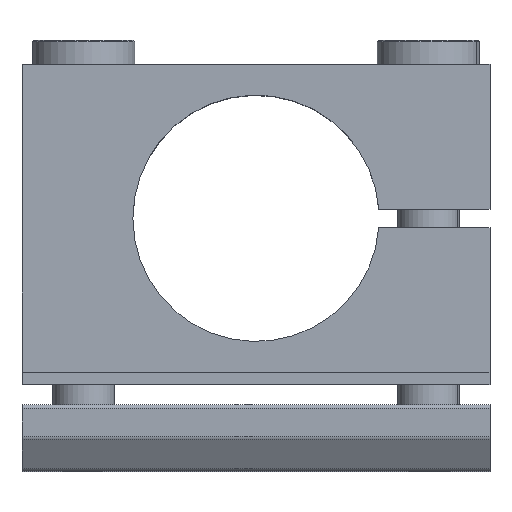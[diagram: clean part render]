
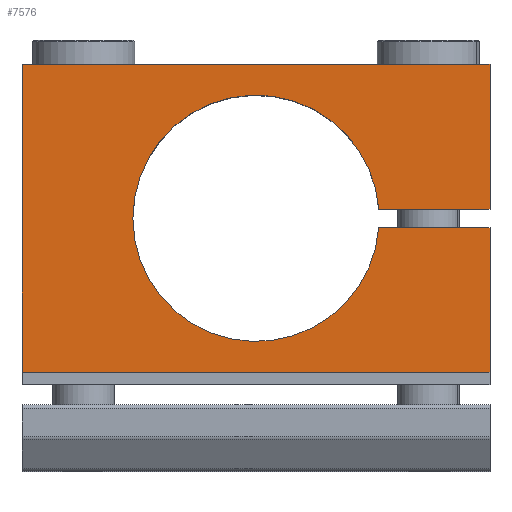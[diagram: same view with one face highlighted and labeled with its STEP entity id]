
A CAD part, top view. The second image highlights one B-rep face of the part: STEP entity #7576.
In plain terms, the highlighted planar face has unit normal (0, 0, 1).
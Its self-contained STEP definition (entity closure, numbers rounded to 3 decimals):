
#132 = LINE ( 'NONE', #1173, #3458 ) ;
#212 = CARTESIAN_POINT ( 'NONE',  ( 0., 0., 19.783 ) ) ;
#249 = ORIENTED_EDGE ( 'NONE', *, *, #5268, .F. ) ;
#331 = ORIENTED_EDGE ( 'NONE', *, *, #5011, .F. ) ;
#382 = CARTESIAN_POINT ( 'NONE',  ( -61.225, 36.97, 19.783 ) ) ;
#425 = LINE ( 'NONE', #7567, #1794 ) ;
#461 = CIRCLE ( 'NONE', #8224, 10. ) ;
#680 = CARTESIAN_POINT ( 'NONE',  ( -52.197, 38.47, 19.783 ) ) ;
#822 = LINE ( 'NONE', #7370, #8998 ) ;
#840 = AXIS2_PLACEMENT_3D ( 'NONE', #212, #6084, #6158 ) ;
#1069 = FACE_OUTER_BOUND ( 'NONE', #5397, .T. ) ;
#1173 = CARTESIAN_POINT ( 'NONE',  ( -52.197, 38.47, 19.783 ) ) ;
#1526 = VERTEX_POINT ( 'NONE', #5766 ) ;
#1528 = VERTEX_POINT ( 'NONE', #680 ) ;
#1765 = EDGE_CURVE ( 'NONE', #7439, #2057, #6454, .T. ) ;
#1794 = VECTOR ( 'NONE', #8267, 1000. ) ;
#1916 = DIRECTION ( 'NONE',  ( -1., 0., 0. ) ) ;
#2057 = VERTEX_POINT ( 'NONE', #8494 ) ;
#2065 = EDGE_CURVE ( 'NONE', #2155, #1528, #7767, .T. ) ;
#2116 = LINE ( 'NONE', #382, #4051 ) ;
#2126 = CARTESIAN_POINT ( 'NONE',  ( -90.197, 25.22, 19.783 ) ) ;
#2155 = VERTEX_POINT ( 'NONE', #9411 ) ;
#2262 = CARTESIAN_POINT ( 'NONE',  ( -52.197, 36.97, 19.783 ) ) ;
#2317 = VECTOR ( 'NONE', #4257, 1000. ) ;
#2707 = VERTEX_POINT ( 'NONE', #9385 ) ;
#2974 = DIRECTION ( 'NONE',  ( 1., 0., 0. ) ) ;
#2989 = DIRECTION ( 'NONE',  ( 0., 0., 1. ) ) ;
#3062 = ORIENTED_EDGE ( 'NONE', *, *, #9254, .F. ) ;
#3116 = PLANE ( 'NONE',  #840 ) ;
#3302 = EDGE_CURVE ( 'NONE', #1526, #7439, #2116, .T. ) ;
#3458 = VECTOR ( 'NONE', #1916, 1000. ) ;
#3570 = DIRECTION ( 'NONE',  ( 0., -1., 0. ) ) ;
#3595 = ORIENTED_EDGE ( 'NONE', *, *, #4082, .F. ) ;
#3649 = ORIENTED_EDGE ( 'NONE', *, *, #2065, .F. ) ;
#4001 = ORIENTED_EDGE ( 'NONE', *, *, #8707, .F. ) ;
#4051 = VECTOR ( 'NONE', #7640, 1000. ) ;
#4082 = EDGE_CURVE ( 'NONE', #6056, #9009, #4256, .T. ) ;
#4085 = VECTOR ( 'NONE', #3570, 1000. ) ;
#4170 = CARTESIAN_POINT ( 'NONE',  ( -52.197, 50.22, 19.783 ) ) ;
#4256 = LINE ( 'NONE', #4914, #2317 ) ;
#4257 = DIRECTION ( 'NONE',  ( 0., 1., 0. ) ) ;
#4914 = CARTESIAN_POINT ( 'NONE',  ( -90.197, 24.22, 19.783 ) ) ;
#5011 = EDGE_CURVE ( 'NONE', #1528, #2707, #132, .T. ) ;
#5268 = EDGE_CURVE ( 'NONE', #2057, #6056, #425, .T. ) ;
#5397 = EDGE_LOOP ( 'NONE', ( #5954, #3062, #331, #3649, #4001, #3595, #249, #7548 ) ) ;
#5679 = CARTESIAN_POINT ( 'NONE',  ( -52.197, 50.22, 19.783 ) ) ;
#5766 = CARTESIAN_POINT ( 'NONE',  ( -61.225, 36.97, 19.783 ) ) ;
#5954 = ORIENTED_EDGE ( 'NONE', *, *, #3302, .F. ) ;
#5994 = CARTESIAN_POINT ( 'NONE',  ( -71.197, 37.72, 19.783 ) ) ;
#6056 = VERTEX_POINT ( 'NONE', #2126 ) ;
#6084 = DIRECTION ( 'NONE',  ( 0., 0., -1. ) ) ;
#6158 = DIRECTION ( 'NONE',  ( -1., 0., 0. ) ) ;
#6454 = LINE ( 'NONE', #5679, #7718 ) ;
#7370 = CARTESIAN_POINT ( 'NONE',  ( -90.197, 50.22, 19.783 ) ) ;
#7439 = VERTEX_POINT ( 'NONE', #2262 ) ;
#7548 = ORIENTED_EDGE ( 'NONE', *, *, #1765, .F. ) ;
#7567 = CARTESIAN_POINT ( 'NONE',  ( -52.197, 25.22, 19.783 ) ) ;
#7576 = ADVANCED_FACE ( 'NONE', ( #1069 ), #3116, .F. ) ;
#7640 = DIRECTION ( 'NONE',  ( 1., 0., 0. ) ) ;
#7718 = VECTOR ( 'NONE', #7883, 1000. ) ;
#7767 = LINE ( 'NONE', #4170, #4085 ) ;
#7873 = CARTESIAN_POINT ( 'NONE',  ( -90.197, 50.22, 19.783 ) ) ;
#7883 = DIRECTION ( 'NONE',  ( 0., -1., 0. ) ) ;
#8224 = AXIS2_PLACEMENT_3D ( 'NONE', #5994, #2989, #8919 ) ;
#8267 = DIRECTION ( 'NONE',  ( -1., 0., 0. ) ) ;
#8494 = CARTESIAN_POINT ( 'NONE',  ( -52.197, 25.22, 19.783 ) ) ;
#8707 = EDGE_CURVE ( 'NONE', #9009, #2155, #822, .T. ) ;
#8919 = DIRECTION ( 'NONE',  ( 1., 0., 0. ) ) ;
#8998 = VECTOR ( 'NONE', #2974, 1000. ) ;
#9009 = VERTEX_POINT ( 'NONE', #7873 ) ;
#9254 = EDGE_CURVE ( 'NONE', #2707, #1526, #461, .T. ) ;
#9385 = CARTESIAN_POINT ( 'NONE',  ( -61.225, 38.47, 19.783 ) ) ;
#9411 = CARTESIAN_POINT ( 'NONE',  ( -52.197, 50.22, 19.783 ) ) ;
